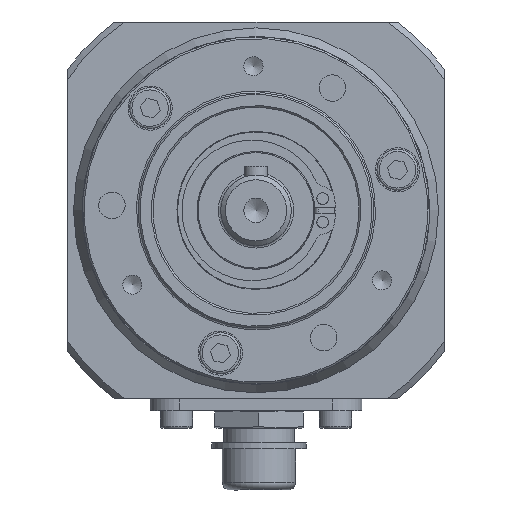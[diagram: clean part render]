
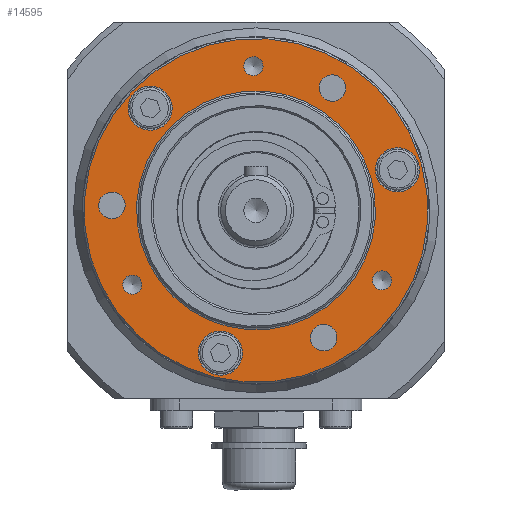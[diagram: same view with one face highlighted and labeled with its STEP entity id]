
A CAD part, left-side view. The second image highlights one B-rep face of the part: STEP entity #14595.
In plain terms, the highlighted planar face has unit normal (-1, 0, 0).
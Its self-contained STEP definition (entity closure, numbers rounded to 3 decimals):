
#3284=FACE_BOUND('',#4638,.T.);
#3285=FACE_BOUND('',#4639,.T.);
#3286=FACE_BOUND('',#4640,.T.);
#3287=FACE_BOUND('',#4641,.T.);
#3288=FACE_BOUND('',#4642,.T.);
#3289=FACE_BOUND('',#4643,.T.);
#3290=FACE_BOUND('',#4644,.T.);
#3291=FACE_BOUND('',#4645,.T.);
#3292=FACE_BOUND('',#4646,.T.);
#3293=FACE_BOUND('',#4647,.T.);
#3662=FACE_OUTER_BOUND('',#4637,.T.);
#4637=EDGE_LOOP('',(#9964));
#4638=EDGE_LOOP('',(#9965));
#4639=EDGE_LOOP('',(#9966));
#4640=EDGE_LOOP('',(#9967));
#4641=EDGE_LOOP('',(#9968));
#4642=EDGE_LOOP('',(#9969));
#4643=EDGE_LOOP('',(#9970));
#4644=EDGE_LOOP('',(#9971));
#4645=EDGE_LOOP('',(#9972));
#4646=EDGE_LOOP('',(#9973));
#4647=EDGE_LOOP('',(#9974));
#5562=CIRCLE('',#15618,29.2);
#5563=CIRCLE('',#15620,1.621);
#5565=CIRCLE('',#15624,1.621);
#5567=CIRCLE('',#15628,1.621);
#5569=CIRCLE('',#15632,3.75);
#5572=CIRCLE('',#15637,3.75);
#5574=CIRCLE('',#15641,3.75);
#5578=CIRCLE('',#15648,2.25);
#5579=CIRCLE('',#15649,2.25);
#5580=CIRCLE('',#15650,2.25);
#5581=CIRCLE('',#15651,20.3);
#6099=VERTEX_POINT('',#20920);
#6100=VERTEX_POINT('',#20923);
#6102=VERTEX_POINT('',#20929);
#6104=VERTEX_POINT('',#20935);
#6106=VERTEX_POINT('',#20941);
#6109=VERTEX_POINT('',#20949);
#6111=VERTEX_POINT('',#20955);
#6115=VERTEX_POINT('',#20966);
#6116=VERTEX_POINT('',#20968);
#6117=VERTEX_POINT('',#20970);
#6118=VERTEX_POINT('',#20972);
#7576=EDGE_CURVE('',#6099,#6099,#5562,.T.);
#7577=EDGE_CURVE('',#6100,#6100,#5563,.T.);
#7579=EDGE_CURVE('',#6102,#6102,#5565,.T.);
#7581=EDGE_CURVE('',#6104,#6104,#5567,.T.);
#7583=EDGE_CURVE('',#6106,#6106,#5569,.T.);
#7586=EDGE_CURVE('',#6109,#6109,#5572,.T.);
#7588=EDGE_CURVE('',#6111,#6111,#5574,.T.);
#7592=EDGE_CURVE('',#6115,#6115,#5578,.T.);
#7593=EDGE_CURVE('',#6116,#6116,#5579,.T.);
#7594=EDGE_CURVE('',#6117,#6117,#5580,.T.);
#7595=EDGE_CURVE('',#6118,#6118,#5581,.T.);
#9964=ORIENTED_EDGE('',*,*,#7576,.F.);
#9965=ORIENTED_EDGE('',*,*,#7592,.T.);
#9966=ORIENTED_EDGE('',*,*,#7593,.T.);
#9967=ORIENTED_EDGE('',*,*,#7594,.T.);
#9968=ORIENTED_EDGE('',*,*,#7577,.T.);
#9969=ORIENTED_EDGE('',*,*,#7579,.T.);
#9970=ORIENTED_EDGE('',*,*,#7581,.T.);
#9971=ORIENTED_EDGE('',*,*,#7583,.T.);
#9972=ORIENTED_EDGE('',*,*,#7586,.T.);
#9973=ORIENTED_EDGE('',*,*,#7588,.T.);
#9974=ORIENTED_EDGE('',*,*,#7595,.F.);
#13205=PLANE('',#15647);
#14595=ADVANCED_FACE('',(#3662,#3284,#3285,#3286,#3287,#3288,#3289,#3290,
#3291,#3292,#3293),#13205,.T.);
#15618=AXIS2_PLACEMENT_3D('',#20921,#17228,#17229);
#15620=AXIS2_PLACEMENT_3D('',#20924,#17232,#17233);
#15624=AXIS2_PLACEMENT_3D('',#20930,#17240,#17241);
#15628=AXIS2_PLACEMENT_3D('',#20936,#17248,#17249);
#15632=AXIS2_PLACEMENT_3D('',#20942,#17256,#17257);
#15637=AXIS2_PLACEMENT_3D('',#20950,#17266,#17267);
#15641=AXIS2_PLACEMENT_3D('',#20956,#17274,#17275);
#15647=AXIS2_PLACEMENT_3D('',#20965,#17286,#17287);
#15648=AXIS2_PLACEMENT_3D('',#20967,#17288,#17289);
#15649=AXIS2_PLACEMENT_3D('',#20969,#17290,#17291);
#15650=AXIS2_PLACEMENT_3D('',#20971,#17292,#17293);
#15651=AXIS2_PLACEMENT_3D('',#20973,#17294,#17295);
#17228=DIRECTION('center_axis',(1.,0.,0.));
#17229=DIRECTION('ref_axis',(0.,-0.961,0.276));
#17232=DIRECTION('center_axis',(1.,0.,0.));
#17233=DIRECTION('ref_axis',(0.,0.276,0.961));
#17240=DIRECTION('center_axis',(1.,0.,0.));
#17241=DIRECTION('ref_axis',(0.,0.276,0.961));
#17248=DIRECTION('center_axis',(1.,0.,0.));
#17249=DIRECTION('ref_axis',(0.,0.276,0.961));
#17256=DIRECTION('center_axis',(1.,0.,0.));
#17257=DIRECTION('ref_axis',(0.,0.276,0.961));
#17266=DIRECTION('center_axis',(1.,0.,0.));
#17267=DIRECTION('ref_axis',(0.,0.276,0.961));
#17274=DIRECTION('center_axis',(1.,0.,0.));
#17275=DIRECTION('ref_axis',(0.,0.276,0.961));
#17286=DIRECTION('center_axis',(-1.,0.,0.));
#17287=DIRECTION('ref_axis',(0.,0.276,0.961));
#17288=DIRECTION('center_axis',(1.,0.,0.));
#17289=DIRECTION('ref_axis',(0.,0.276,0.961));
#17290=DIRECTION('center_axis',(1.,0.,0.));
#17291=DIRECTION('ref_axis',(0.,0.276,0.961));
#17292=DIRECTION('center_axis',(1.,0.,0.));
#17293=DIRECTION('ref_axis',(0.,0.276,0.961));
#17294=DIRECTION('center_axis',(-1.,0.,0.));
#17295=DIRECTION('ref_axis',(0.,-0.961,0.276));
#20920=CARTESIAN_POINT('',(3.,28.069,-8.049));
#20921=CARTESIAN_POINT('Origin',(3.,0.,
0.));
#20923=CARTESIAN_POINT('',(3.,-0.019,22.938));
#20924=CARTESIAN_POINT('Origin',(3.,0.428,24.496));
#20929=CARTESIAN_POINT('',(3.,20.554,-14.177));
#20930=CARTESIAN_POINT('Origin',(3.,21.001,-12.618));
#20935=CARTESIAN_POINT('',(3.,-21.875,-13.436));
#20936=CARTESIAN_POINT('Origin',(3.,-21.428,-11.878));
#20941=CARTESIAN_POINT('',(3.,16.95,13.762));
#20942=CARTESIAN_POINT('Origin',(3.,17.983,17.366));
#20949=CARTESIAN_POINT('',(3.,5.014,-27.862));
#20950=CARTESIAN_POINT('Origin',(3.,6.048,-24.257));
#20955=CARTESIAN_POINT('',(3.,-25.065,3.286));
#20956=CARTESIAN_POINT('Origin',(3.,-24.032,6.891));
#20965=CARTESIAN_POINT('Origin',(3.,23.791,-6.822));
#20966=CARTESIAN_POINT('',(3.,-12.122,-23.795));
#20967=CARTESIAN_POINT('Origin',(3.,-11.502,-21.632));
#20968=CARTESIAN_POINT('',(3.,-13.603,18.614));
#20969=CARTESIAN_POINT('Origin',(3.,-12.983,20.777));
#20970=CARTESIAN_POINT('',(3.,23.865,-1.308));
#20971=CARTESIAN_POINT('Origin',(3.,24.485,0.855));
#20972=CARTESIAN_POINT('',(3.,19.514,-5.595));
#20973=CARTESIAN_POINT('Origin',(3.,0.,
0.));
